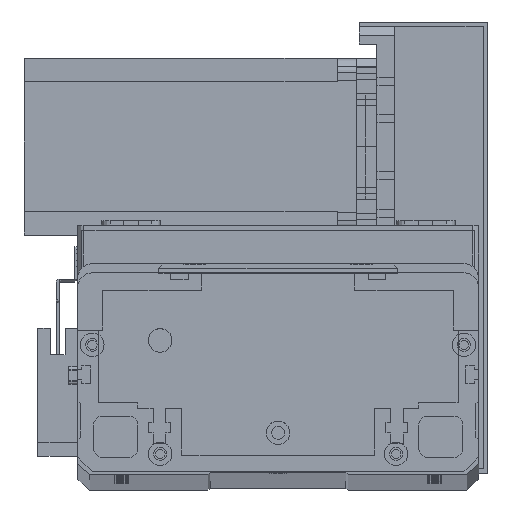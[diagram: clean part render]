
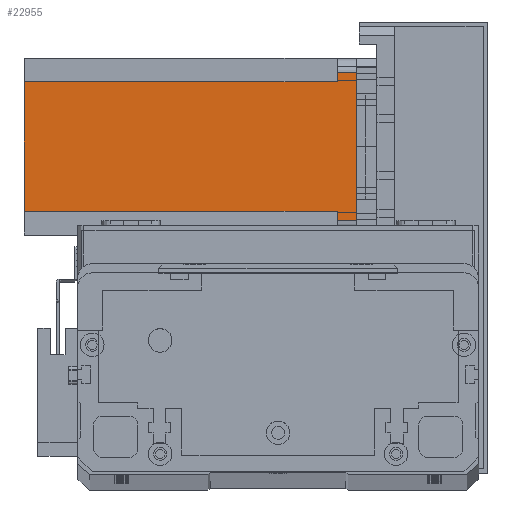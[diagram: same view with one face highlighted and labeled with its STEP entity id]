
A CAD part, top view. The second image highlights one B-rep face of the part: STEP entity #22955.
In plain terms, the highlighted planar face has unit normal (0, 0, 1) as drawn and (0, 1, 0) by its records, which use the part's own axes.
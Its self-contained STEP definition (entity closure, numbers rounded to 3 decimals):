
#34 = DIRECTION ( 'NONE',  ( -1., 0., 0. ) ) ;
#158 = VERTEX_POINT ( 'NONE', #22179 ) ;
#739 = VECTOR ( 'NONE', #9415, 1000. ) ;
#1085 = ORIENTED_EDGE ( 'NONE', *, *, #30444, .F. ) ;
#1656 = EDGE_CURVE ( 'NONE', #3694, #158, #18556, .T. ) ;
#2578 = VERTEX_POINT ( 'NONE', #11066 ) ;
#3433 = ORIENTED_EDGE ( 'NONE', *, *, #4233, .T. ) ;
#3694 = VERTEX_POINT ( 'NONE', #6719 ) ;
#3851 = LINE ( 'NONE', #11829, #22503 ) ;
#4233 = EDGE_CURVE ( 'NONE', #3694, #30424, #22606, .T. ) ;
#4355 = CARTESIAN_POINT ( 'NONE',  ( 52., 60., -112.5 ) ) ;
#5075 = DIRECTION ( 'NONE',  ( 0., 0., -1. ) ) ;
#6719 = CARTESIAN_POINT ( 'NONE',  ( 8., 60., -6.5 ) ) ;
#6948 = CARTESIAN_POINT ( 'NONE',  ( 5., 60., -6.5 ) ) ;
#8421 = EDGE_CURVE ( 'NONE', #30424, #28413, #13130, .T. ) ;
#8627 = VECTOR ( 'NONE', #34, 1000. ) ;
#9048 = ORIENTED_EDGE ( 'NONE', *, *, #23045, .F. ) ;
#9119 = CARTESIAN_POINT ( 'NONE',  ( 0., 60., -112.5 ) ) ;
#9415 = DIRECTION ( 'NONE',  ( 0., 0., 1. ) ) ;
#9902 = ORIENTED_EDGE ( 'NONE', *, *, #8421, .T. ) ;
#11066 = CARTESIAN_POINT ( 'NONE',  ( 52., 60., -6.5 ) ) ;
#11517 = DIRECTION ( 'NONE',  ( 0., 1., 0. ) ) ;
#11570 = VERTEX_POINT ( 'NONE', #14167 ) ;
#11724 = DIRECTION ( 'NONE',  ( -1., 0., 0. ) ) ;
#11829 = CARTESIAN_POINT ( 'NONE',  ( 0., 60., 0. ) ) ;
#13113 = VERTEX_POINT ( 'NONE', #20136 ) ;
#13130 = LINE ( 'NONE', #22262, #19535 ) ;
#13341 = CARTESIAN_POINT ( 'NONE',  ( 52., 60., -112.5 ) ) ;
#13723 = VERTEX_POINT ( 'NONE', #13341 ) ;
#13923 = CARTESIAN_POINT ( 'NONE',  ( 5., 60., 0. ) ) ;
#14167 = CARTESIAN_POINT ( 'NONE',  ( 55., 60., 0. ) ) ;
#14357 = DIRECTION ( 'NONE',  ( 1., 0., 0. ) ) ;
#15033 = LINE ( 'NONE', #28888, #8627 ) ;
#15650 = ORIENTED_EDGE ( 'NONE', *, *, #1656, .F. ) ;
#17197 = CARTESIAN_POINT ( 'NONE',  ( 8., 60., -112.5 ) ) ;
#17947 = DIRECTION ( 'NONE',  ( 0., 0., -1. ) ) ;
#18556 = LINE ( 'NONE', #17197, #24882 ) ;
#19142 = FACE_OUTER_BOUND ( 'NONE', #25346, .T. ) ;
#19535 = VECTOR ( 'NONE', #22281, 1000. ) ;
#20136 = CARTESIAN_POINT ( 'NONE',  ( 55., 60., -6.5 ) ) ;
#20285 = LINE ( 'NONE', #4355, #739 ) ;
#21149 = LINE ( 'NONE', #25036, #26684 ) ;
#21829 = VECTOR ( 'NONE', #23330, 1000. ) ;
#21942 = ORIENTED_EDGE ( 'NONE', *, *, #30111, .T. ) ;
#22179 = CARTESIAN_POINT ( 'NONE',  ( 8., 60., -112.5 ) ) ;
#22262 = CARTESIAN_POINT ( 'NONE',  ( 5., 60., -112.5 ) ) ;
#22281 = DIRECTION ( 'NONE',  ( 0., 0., 1. ) ) ;
#22503 = VECTOR ( 'NONE', #11724, 1000. ) ;
#22606 = LINE ( 'NONE', #23635, #21829 ) ;
#22955 = ADVANCED_FACE ( 'NONE', ( #19142 ), #25836, .T. ) ;
#23045 = EDGE_CURVE ( 'NONE', #11570, #28413, #3851, .T. ) ;
#23330 = DIRECTION ( 'NONE',  ( -1., 0., 0. ) ) ;
#23400 = VECTOR ( 'NONE', #14357, 1000. ) ;
#23635 = CARTESIAN_POINT ( 'NONE',  ( 8., 60., -6.5 ) ) ;
#24837 = LINE ( 'NONE', #26242, #23400 ) ;
#24882 = VECTOR ( 'NONE', #5075, 1000. ) ;
#25036 = CARTESIAN_POINT ( 'NONE',  ( 55., 60., -112.5 ) ) ;
#25346 = EDGE_LOOP ( 'NONE', ( #9048, #21942, #1085, #27025, #29558, #15650, #3433, #9902 ) ) ;
#25836 = PLANE ( 'NONE',  #27243 ) ;
#26242 = CARTESIAN_POINT ( 'NONE',  ( 52., 60., -6.5 ) ) ;
#26684 = VECTOR ( 'NONE', #17947, 1000. ) ;
#27025 = ORIENTED_EDGE ( 'NONE', *, *, #31001, .F. ) ;
#27243 = AXIS2_PLACEMENT_3D ( 'NONE', #9119, #11517, #28195 ) ;
#28195 = DIRECTION ( 'NONE',  ( 0., 0., 1. ) ) ;
#28413 = VERTEX_POINT ( 'NONE', #13923 ) ;
#28888 = CARTESIAN_POINT ( 'NONE',  ( 0., 60., -112.5 ) ) ;
#29558 = ORIENTED_EDGE ( 'NONE', *, *, #31177, .T. ) ;
#30111 = EDGE_CURVE ( 'NONE', #11570, #13113, #21149, .T. ) ;
#30424 = VERTEX_POINT ( 'NONE', #6948 ) ;
#30444 = EDGE_CURVE ( 'NONE', #2578, #13113, #24837, .T. ) ;
#31001 = EDGE_CURVE ( 'NONE', #13723, #2578, #20285, .T. ) ;
#31177 = EDGE_CURVE ( 'NONE', #13723, #158, #15033, .T. ) ;
